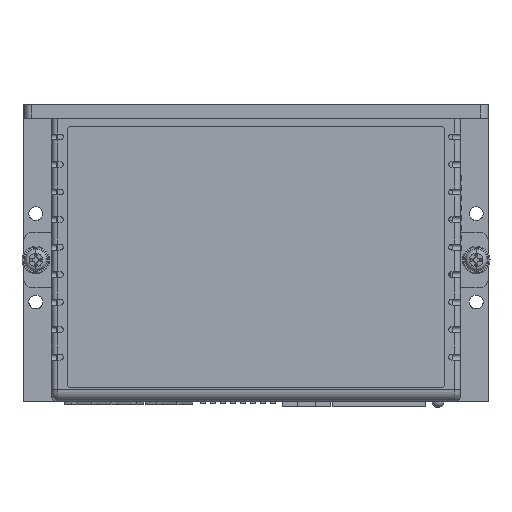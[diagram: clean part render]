
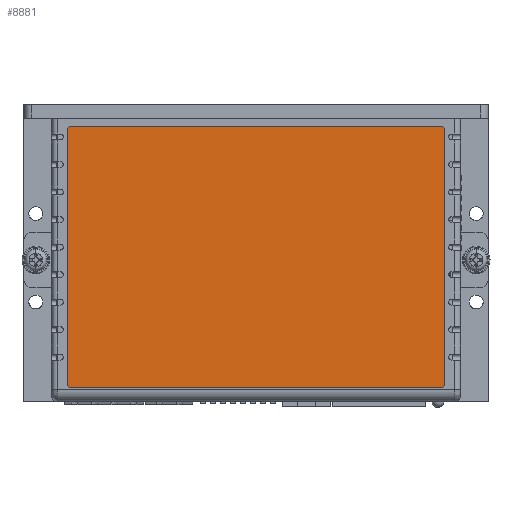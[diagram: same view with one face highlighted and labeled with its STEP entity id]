
A CAD part, top view. The second image highlights one B-rep face of the part: STEP entity #8881.
In plain terms, the highlighted planar face has unit normal (0, 0, 1) as drawn and (0, 1, 0) by its records, which use the part's own axes.
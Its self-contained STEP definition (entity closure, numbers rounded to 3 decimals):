
#3115=CARTESIAN_POINT('',(-47.,17.1,-70.5));
#3116=DIRECTION('',(0.,-1.,0.));
#3117=DIRECTION('',(-1.,0.,0.));
#3118=AXIS2_PLACEMENT_3D('',#3115,#3116,#3117);
#3120=DIRECTION('',(1.,0.,0.));
#3121=VECTOR('',#3120,94.);
#3122=CARTESIAN_POINT('',(-47.,17.1,-71.5));
#3123=LINE('',#3122,#3121);
#3124=CARTESIAN_POINT('',(47.,17.1,-70.5));
#3125=DIRECTION('',(0.,-1.,0.));
#3126=DIRECTION('',(0.,0.,-1.));
#3127=AXIS2_PLACEMENT_3D('',#3124,#3125,#3126);
#3129=DIRECTION('',(0.,0.,1.));
#3130=VECTOR('',#3129,64.5);
#3131=CARTESIAN_POINT('',(48.,17.1,-70.5));
#3132=LINE('',#3131,#3130);
#3133=CARTESIAN_POINT('',(47.,17.1,-6.));
#3134=DIRECTION('',(0.,-1.,0.));
#3135=DIRECTION('',(1.,0.,0.));
#3136=AXIS2_PLACEMENT_3D('',#3133,#3134,#3135);
#3138=DIRECTION('',(-1.,0.,0.));
#3139=VECTOR('',#3138,94.);
#3140=CARTESIAN_POINT('',(47.,17.1,-5.));
#3141=LINE('',#3140,#3139);
#3142=CARTESIAN_POINT('',(-47.,17.1,-6.));
#3143=DIRECTION('',(0.,-1.,0.));
#3144=DIRECTION('',(0.,0.,1.));
#3145=AXIS2_PLACEMENT_3D('',#3142,#3143,#3144);
#3147=DIRECTION('',(0.,0.,-1.));
#3148=VECTOR('',#3147,64.5);
#3149=CARTESIAN_POINT('',(-48.,17.1,-6.));
#3150=LINE('',#3149,#3148);
#4319=CARTESIAN_POINT('',(47.,17.1,-5.));
#4320=CARTESIAN_POINT('',(-47.,17.1,-5.));
#4321=VERTEX_POINT('',#4319);
#4322=VERTEX_POINT('',#4320);
#4323=CARTESIAN_POINT('',(-48.,17.1,-70.5));
#4324=CARTESIAN_POINT('',(-47.,17.1,-71.5));
#4325=VERTEX_POINT('',#4323);
#4326=VERTEX_POINT('',#4324);
#4327=CARTESIAN_POINT('',(47.,17.1,-71.5));
#4328=VERTEX_POINT('',#4327);
#4329=CARTESIAN_POINT('',(48.,17.1,-70.5));
#4330=VERTEX_POINT('',#4329);
#4331=CARTESIAN_POINT('',(48.,17.1,-6.));
#4332=VERTEX_POINT('',#4331);
#4333=CARTESIAN_POINT('',(-48.,17.1,-6.));
#4334=VERTEX_POINT('',#4333);
#8859=CARTESIAN_POINT('',(0.,17.1,0.));
#8860=DIRECTION('',(0.,1.,0.));
#8861=DIRECTION('',(1.,0.,0.));
#8862=AXIS2_PLACEMENT_3D('',#8859,#8860,#8861);
#8863=PLANE('',#8862);
#8865=ORIENTED_EDGE('',*,*,#8864,.T.);
#8867=ORIENTED_EDGE('',*,*,#8866,.T.);
#8869=ORIENTED_EDGE('',*,*,#8868,.T.);
#8871=ORIENTED_EDGE('',*,*,#8870,.T.);
#8873=ORIENTED_EDGE('',*,*,#8872,.T.);
#8874=ORIENTED_EDGE('',*,*,#8842,.T.);
#8876=ORIENTED_EDGE('',*,*,#8875,.T.);
#8878=ORIENTED_EDGE('',*,*,#8877,.T.);
#8879=EDGE_LOOP('',(#8865,#8867,#8869,#8871,#8873,#8874,#8876,#8878));
#8880=FACE_OUTER_BOUND('',#8879,.F.);
#3119=CIRCLE('',#3118,1.);
#3128=CIRCLE('',#3127,1.);
#3137=CIRCLE('',#3136,1.);
#3146=CIRCLE('',#3145,1.);
#8842=EDGE_CURVE('',#4321,#4322,#3141,.T.);
#8864=EDGE_CURVE('',#4325,#4326,#3119,.T.);
#8866=EDGE_CURVE('',#4326,#4328,#3123,.T.);
#8868=EDGE_CURVE('',#4328,#4330,#3128,.T.);
#8870=EDGE_CURVE('',#4330,#4332,#3132,.T.);
#8872=EDGE_CURVE('',#4332,#4321,#3137,.T.);
#8875=EDGE_CURVE('',#4322,#4334,#3146,.T.);
#8877=EDGE_CURVE('',#4334,#4325,#3150,.T.);
#8881=ADVANCED_FACE('',(#8880),#8863,.T.);
